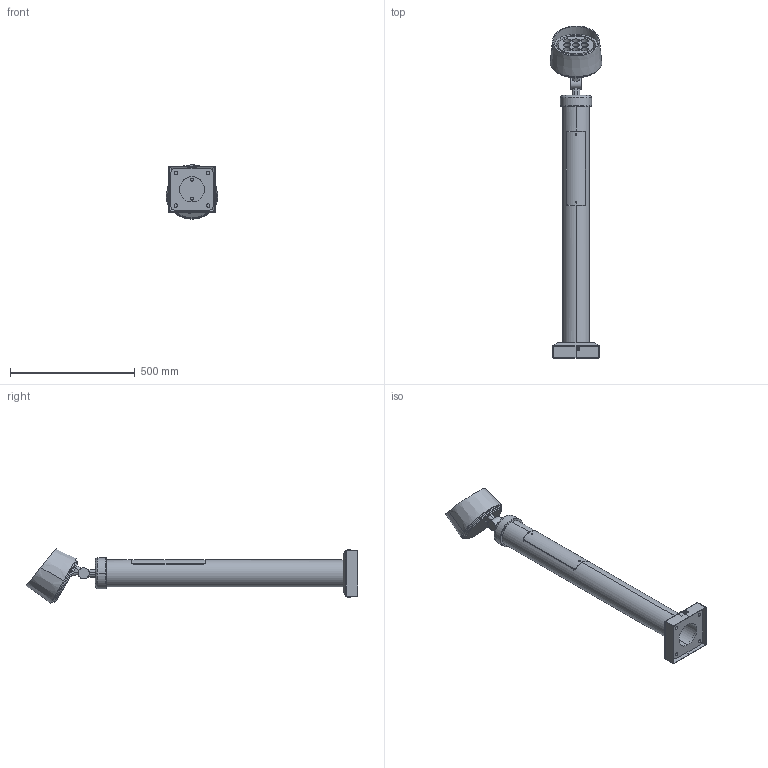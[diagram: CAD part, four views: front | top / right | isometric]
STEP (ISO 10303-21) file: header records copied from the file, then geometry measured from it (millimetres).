
FILE_DESCRIPTION (( 'STEP AP214' ), '1' );
FILE_NAME ('Cona-1Ï(45)-1-(Ê170-130-4õ14)-ö+ïî.STEP', '2021-07-07T12:53:19', ( '' ), ( '' ), 'SwSTEP 2.0', 'SolidWorks 2020', '' );
FILE_SCHEMA (( 'AUTOMOTIVE_DESIGN' ));
Length unit declared in the file: millimetre
Products named in the file (8): Cona-1Ï(45)-1-(Ê170-130-4õ14)-ö+ïî; Cona-1; Ï.2200.010.00.011_Ïëàòèê; Ï2200.010.00.010_Ïîëóêðûøêà (170-108); Ï.2200.010.00.012_Ïîëóêðûøêà (170-108); Ï.2200.010.00.000(170-108)_BS- 170(Ä110); socket button head screw_iso_ISO 7380 - M6 x 16 - 16N
Assembly tree (10 placements, depth 4):
  Cona-1Ï(45)-1-(Ê170-130-4õ14)-ö+ïî
    Cona-1
    Ï.2200.010.00.000(170-108)_BS- 170(Ä110)
      Ï2200.010.00.010_Ïîëóêðûøêà (170-108)
        Ï.2200.010.00.012_Ïîëóêðûøêà (170-108)
        Ï.2200.010.00.011_Ïëàòèê
      Ï2200.010.00.010_Ïîëóêðûøêà (170-108)
        Ï.2200.010.00.012_Ïîëóêðûøêà (170-108)
        Ï.2200.010.00.011_Ïëàòèê
      socket button head screw_iso_ISO 7380 - M6 x 16 - 16N  x2
Bounding box: 207.38 x 1331.74 x 217.65 mm (x, y, z)
Volume: 4907143 mm3; surface area: 1147849.3 mm2
Topology: 14 solids, 14 shells, 327 faces, 751 edges, 458 vertices
Faces by surface type: plane 154, cylinder 137, bspline 16, cone 10, torus 6, sphere 4
Entity records: 9345 total; most frequent: CARTESIAN_POINT 2205, DIRECTION 1162, ORIENTED_EDGE 1072, EDGE_CURVE 536, AXIS2_PLACEMENT_3D 443, VERTEX_POINT 337, EDGE_LOOP 281, VECTOR 276
